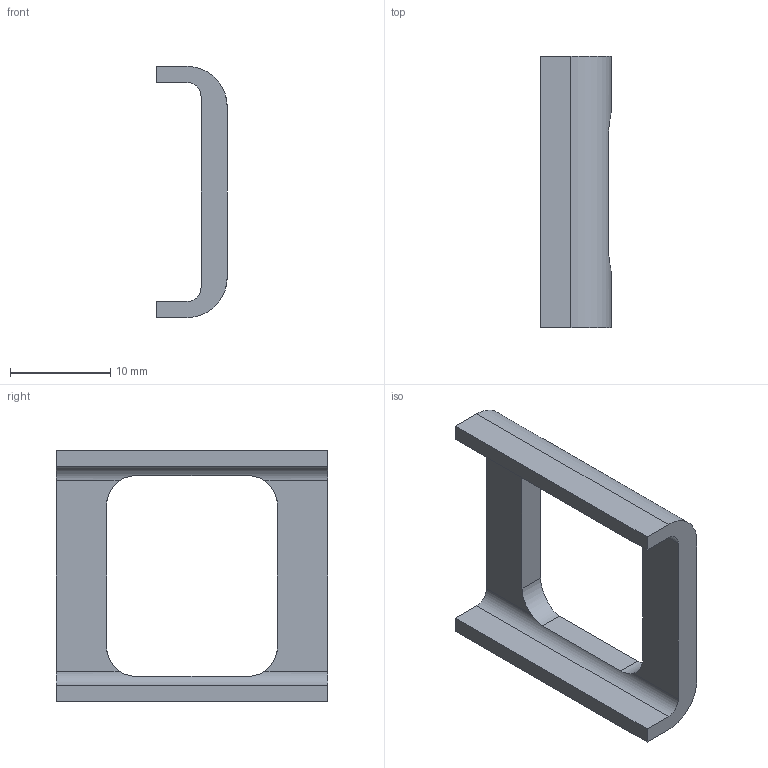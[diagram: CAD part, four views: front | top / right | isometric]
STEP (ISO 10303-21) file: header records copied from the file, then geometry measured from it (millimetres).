
FILE_DESCRIPTION(('Open CASCADE Model'),'2;1');
FILE_NAME('Open CASCADE Shape Model','2026-09-06T11:32:52',('Author'),( 'Open CASCADE'),'Open CASCADE STEP processor 7.7','Open CASCADE 7.7' ,'Unknown');
FILE_SCHEMA(('AUTOMOTIVE_DESIGN { 1 0 10303 214 1 1 1 1 }'));
Length unit declared in the file: millimetre
Products named in the file (1): Open CASCADE STEP translator 7.7 2
Bounding box: 7 x 27 x 25 mm (x, y, z)
Volume: 1112.1 mm3; surface area: 1493.8 mm2
Topology: 1 solids, 1 shells, 24 faces, 72 edges, 48 vertices
Faces by surface type: plane 16, cylinder 8
Entity records: 2074 total; most frequent: CARTESIAN_POINT 769, DIRECTION 202, ORIENTED_EDGE 144, PCURVE 144, DEFINITIONAL_REPRESENTATION 144, LINE 112, VECTOR 112, EDGE_CURVE 72
